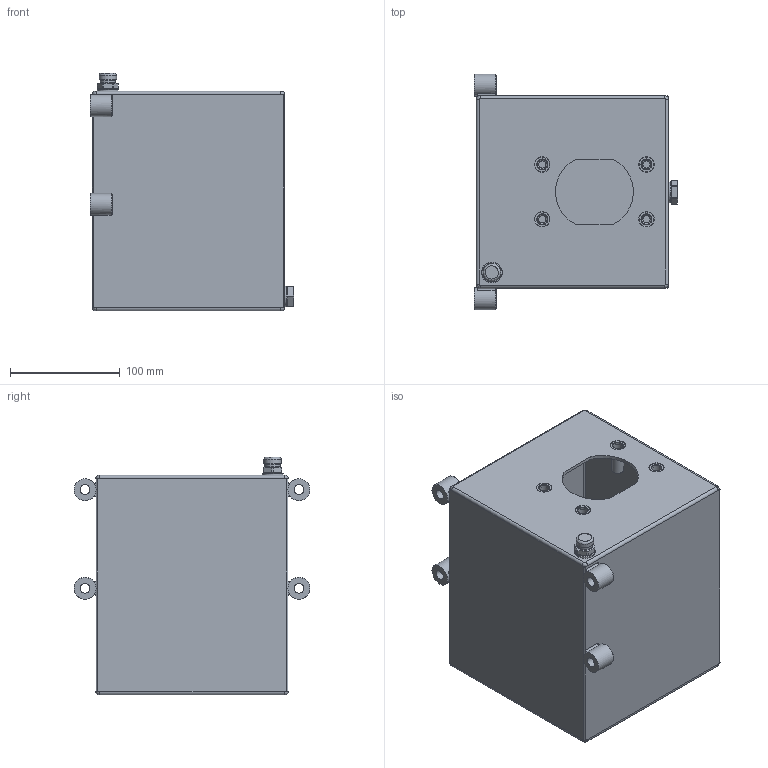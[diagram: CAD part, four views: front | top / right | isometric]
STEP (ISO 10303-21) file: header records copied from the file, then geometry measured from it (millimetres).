
FILE_DESCRIPTION (( 'STEP AP214' ), '1' );
FILE_NAME ('17900006.STEP', '2020-06-23T09:45:30', ( '' ), ( '' ), 'SwSTEP 2.0', 'SolidWorks 2017', '' );
FILE_SCHEMA (( 'AUTOMOTIVE_DESIGN' ));
Length unit declared in the file: millimetre
Products named in the file (1): 17900006
Bounding box: 185.5 x 215 x 216.5 mm (x, y, z)
Volume: 735976.5 mm3; surface area: 394288.5 mm2
Topology: 1 solids, 1 shells, 207 faces, 500 edges, 319 vertices
Faces by surface type: plane 92, cylinder 71, cone 33, torus 10, bspline 1
Full cylindrical faces by diameter (mm): 1.5 x1, 5 x1, 6.647 x4, 8 x1, 9 x8, 11 x4, 13 x1, 13.5 x1, 14 x1, 16 x1, 17 x1, 18 x1, 19 x2, 20 x4
Entity records: 6123 total; most frequent: CARTESIAN_POINT 1001, DIRECTION 998, ORIENTED_EDGE 774, AXIS2_PLACEMENT_3D 420, EDGE_CURVE 387, EDGE_LOOP 308, VERTEX_POINT 273, FACE_OUTER_BOUND 241
